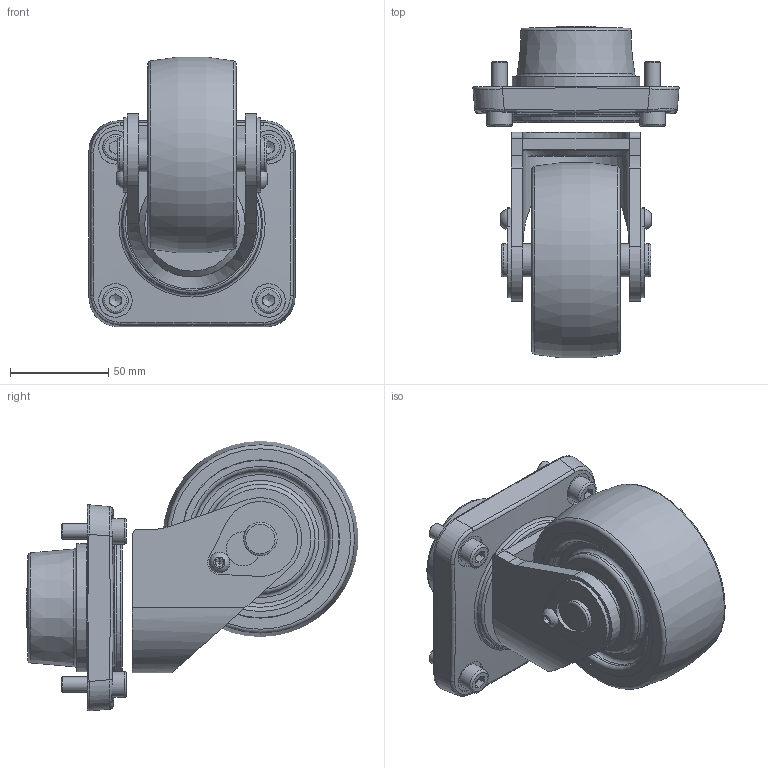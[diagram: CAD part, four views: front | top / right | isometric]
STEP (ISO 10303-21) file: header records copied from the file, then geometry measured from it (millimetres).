
FILE_DESCRIPTION (( 'STEP AP203' ), '1' );
FILE_NAME ('4渡創笭勀砃謫.STEP', '2018-05-04T14:34:21', ( '' ), ( '' ), 'SwSTEP 2.0', 'SolidWorks 2016', '' );
FILE_SCHEMA (( 'CONFIG_CONTROL_DESIGN' ));
Length unit declared in the file: millimetre
Products named in the file (2): 4渡創笭勀砃謫
Bounding box: 104.73 x 168.61 x 137.12 mm (x, y, z)
Surface area: 108508.8 mm2 (no closed solid volume)
Topology: 0 solids, 29 shells, 282 faces, 934 edges, 652 vertices
Faces by surface type: plane 113, cylinder 51, torus 47, sphere 28, cone 26, bspline 17
Full cylindrical faces by diameter (mm): 8 x4, 9 x4, 12 x2, 13 x4, 17 x7, 18 x1, 20 x1, 24.667 x2, 27.333 x1, 34.667 x1, 42 x1, 65 x1, 80 x2, 80.4 x2
Entity records: 12455 total; most frequent: CARTESIAN_POINT 5548, DIRECTION 1296, ORIENTED_EDGE 1171, EDGE_CURVE 749, VERTEX_POINT 578, AXIS2_PLACEMENT_3D 546, EDGE_LOOP 443, FACE_OUTER_BOUND 317
